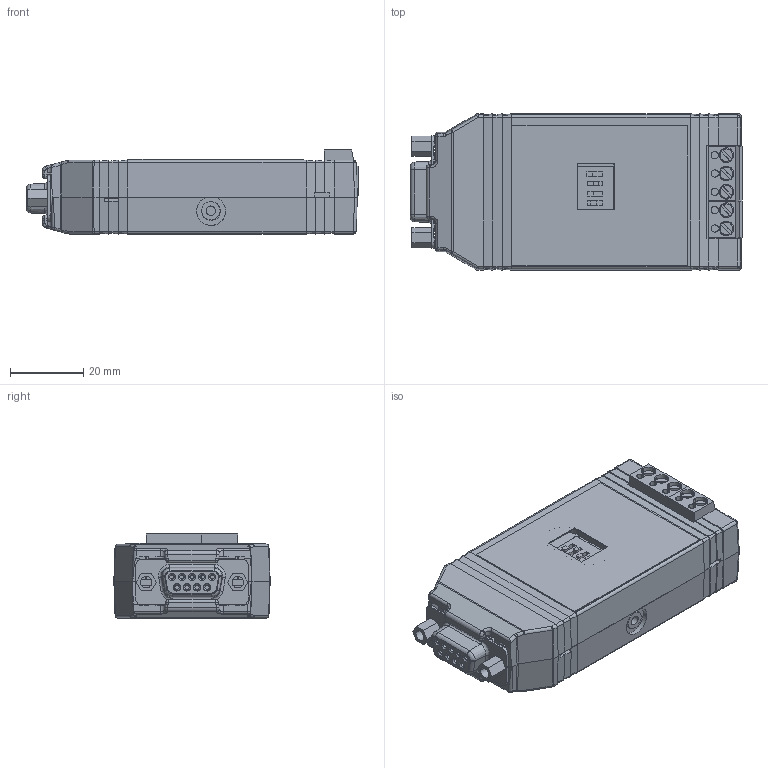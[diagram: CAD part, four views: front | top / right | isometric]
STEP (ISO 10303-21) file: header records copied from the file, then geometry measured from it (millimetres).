
FILE_DESCRIPTION (( 'STEP AP214' ), '1' );
FILE_NAME ('4WSD9TB.STEP', '2017-11-27T18:10:31', ( '' ), ( '' ), 'SwSTEP 2.0', 'SolidWorks 2015', '' );
FILE_SCHEMA (( 'AUTOMOTIVE_DESIGN' ));
Length unit declared in the file: inch
Products named in the file (1): 4WSD9TB
Bounding box: 90.64 x 42.67 x 22.94 mm (x, y, z)
Surface area: 20795.6 mm2 (no closed solid volume)
Topology: 0 solids, 21 shells, 707 faces, 2531 edges, 1813 vertices
Faces by surface type: plane 348, cylinder 241, cone 57, bspline 55, torus 6
Entity records: 38052 total; most frequent: CARTESIAN_POINT 7878, DIRECTION 4234, ORIENTED_EDGE 4010, EDGE_CURVE 2523, VERTEX_POINT 1813, LINE 1528, VECTOR 1528, AXIS2_PLACEMENT_3D 1353
